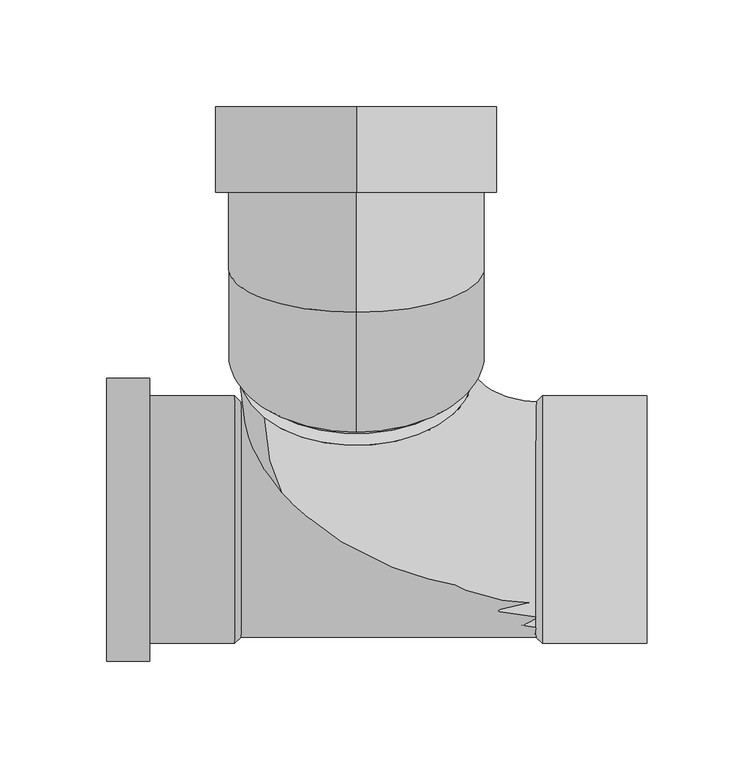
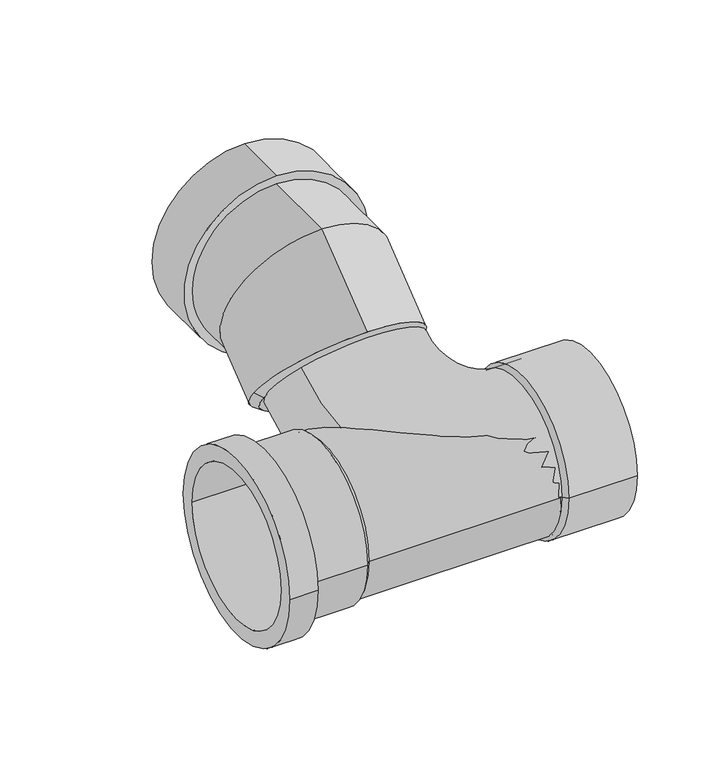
"""IFC4 building model written with IfcOpenShell, lengths in millimetres: pipe fitting geometry, Wavin_PipeAccessory_OsmaAccessoriesWcBranch : 38º."""

from ifc_helpers import new_model, si_unit, point, frame, origin, origin_2d, place, context, project, spatial, polyline, circle_curve, ellipse_curve, trimmed, segment, composite_curve, outline, extrude, source, transform, mapped, element, save
from ifc_brep_helpers import plane_surface, cylinder_surface, revolved_surface, advanced_brep


def pipe_fitting_1e764480(model_context):
    return source(origin(), model_context, "Body", "SolidModel", [
        advanced_brep(
        [(-54.1, -55.0, 0.0), (-54.1, 55.0, 0.0), (-117.0, 55.0, 0.0), (-117.0, -55.0, 0.0), (-97.0, -57.9, 0.0), (-97.0, 57.9, 0.0), (-57.0, 57.9, 0.0), (-57.0, -57.9, 0.0), (-117.0, -66.25, 0.0), (-117.0, 66.25, 0.0), (-97.0, 66.25, 0.0), (-97.0, -66.25, 0.0)],
        [
            (0, 1, circle_curve(frame((-54.1, 0.0, 0.0), z_axis=(1.0, 0.0, 0.0), x_axis=(0.0, 1.0000000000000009, 0.0)), 55.0)),
            (1, 2),
            (2, 3, circle_curve(frame((-117.0, 0.0, 0.0), z_axis=(-1.0, 0.0, 0.0), x_axis=(0.0, 1.0000000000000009, 0.0)), 55.0)),
            (3, 0),
            (4, 5, circle_curve(frame((-97.0, 0.0, 0.0), z_axis=(1.0, 0.0, 0.0), x_axis=(0.0, 1.0000000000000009, 0.0)), 57.9)),
            (5, 6),
            (6, 7, circle_curve(frame((-57.0, 0.0, 0.0), z_axis=(-1.0, 0.0, 0.0), x_axis=(0.0, 1.0000000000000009, 0.0)), 57.9)),
            (7, 4),
            (1, 0, circle_curve(frame((-54.1, 0.0, 0.0), z_axis=(1.0, 0.0, 0.0), x_axis=(0.0, -1.0000000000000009, 0.0)), 55.0)),
            (3, 2, circle_curve(frame((-117.0, 0.0, 0.0), z_axis=(-1.0, 0.0, 0.0), x_axis=(0.0, -1.0000000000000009, 0.0)), 55.0)),
            (5, 4, circle_curve(frame((-97.0, 0.0, 0.0), z_axis=(1.0, 0.0, 0.0), x_axis=(0.0, -1.0000000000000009, 0.0)), 57.9)),
            (7, 6, circle_curve(frame((-57.0, 0.0, 0.0), z_axis=(-1.0, 0.0, 0.0), x_axis=(0.0, -1.0000000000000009, 0.0)), 57.9)),
            (8, 9, circle_curve(frame((-117.0, 0.0, 0.0), z_axis=(1.0, 0.0, 0.0), x_axis=(0.0, 1.0000000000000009, 0.0)), 66.25)),
            (9, 10),
            (10, 11, circle_curve(frame((-97.0, 0.0, 0.0), z_axis=(-1.0, 0.0, 0.0), x_axis=(0.0, 1.0000000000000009, 0.0)), 66.25)),
            (11, 8),
            (10, 11, circle_curve(frame((-97.0, 0.0, 0.0), z_axis=(1.0, 0.0, 0.0), x_axis=(0.0, -1.0000000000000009, 0.0)), 66.25)),
            (9, 8, circle_curve(frame((-117.0, 0.0, 0.0), z_axis=(1.0, 0.0, 0.0), x_axis=(0.0, -1.0000000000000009, 0.0)), 66.25)),
            (6, 1),
            (0, 7),
        ],
        [
            revolved_surface(polyline([(-117.00000000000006, 55.00000000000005, 0.0), (-54.1, 55.00000000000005, 0.0)]), (-57.0, 0.0, 0.0), (-1.0000000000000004, 0.0, 0.0)),
            cylinder_surface(frame((-57.0, 0.0, 0.0), z_axis=(-1.0000000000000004, 0.0, 0.0), x_axis=(0.0, 1.0000000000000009, 0.0)), 57.9),
            revolved_surface(polyline([(-117.00000000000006, -55.00000000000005, 0.0), (-54.1, -55.00000000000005, 0.0)]), (-57.0, 0.0, 0.0), (-1.0000000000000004, 0.0, 0.0)),
            cylinder_surface(frame((-57.0, 0.0, 0.0), z_axis=(-1.0000000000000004, 0.0, 0.0), x_axis=(0.0, -1.0000000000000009, 0.0)), 57.9),
            cylinder_surface(frame((-57.0, 0.0, 0.0), z_axis=(-1.0000000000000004, 0.0, 0.0), x_axis=(0.0, 1.0000000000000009, 0.0)), 66.25),
            plane_surface(frame((-97.0, 0.0, 0.0), z_axis=(1.0, 0.0, 0.0), x_axis=(0.0, -1.0, 0.0))),
            cylinder_surface(frame((-57.0, 0.0, 0.0), z_axis=(-1.0000000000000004, 0.0, 0.0), x_axis=(0.0, -1.0000000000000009, 0.0)), 66.25),
            plane_surface(frame((-117.0, 0.0, 0.0), z_axis=(-1.0, 0.0, 0.0), x_axis=(0.0, -1.0, 0.0))),
            revolved_surface(polyline([(-54.1, 55.0, 0.0), (-57.0, 57.9, 0.0)]), (-57.0, 0.0, 0.0), (-1.0000000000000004, 0.0, 0.0)),
            revolved_surface(polyline([(-54.1, -55.0, 0.0), (-57.0, -57.9, 0.0)]), (-57.0, 0.0, 0.0), (-1.0000000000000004, 0.0, 0.0)),
        ],
        [
            (0, [[1, 2, 3, 4]]),
            (1, [[5, 6, 7, 8]]),
            (2, [[9, -4, 10, -2]]),
            (3, [[11, -8, 12, -6]]),
            (4, [[13, 14, 15, 16]]),
            (5, [[17, -15], [-11, -5]]),
            (6, [[18, -16, -17, -14]]),
            (7, [[-18, -13], [-10, -3]]),
            (8, [[-7, 19, -1, 20]]),
            (9, [[-12, -20, -9, -19]]),
        ],
    ),
        advanced_brep(
        [(87.0, 57.9, 0.0), (87.0, -57.9, 0.0), (84.1, -55.0, 0.0), (84.1, 55.0, 0.0), (136.0, 57.9, 0.0), (136.0, -57.9, 0.0), (136.0, -55.0, 0.0), (136.0, 55.0, 0.0)],
        [
            (0, 1, circle_curve(frame((87.0, 0.0, 0.0), z_axis=(-1.0, 0.0, 0.0), x_axis=(0.0, -1.0, 0.0)), 57.9)),
            (1, 2),
            (2, 3, circle_curve(frame((84.1, 0.0, 0.0), z_axis=(1.0, 0.0, 0.0), x_axis=(0.0, -1.0, 0.0)), 55.0)),
            (3, 0),
            (4, 5, circle_curve(frame((136.0, 0.0, 0.0), z_axis=(-1.0, 0.0, 0.0), x_axis=(0.0, -1.0, 0.0)), 57.9)),
            (5, 1),
            (0, 4),
            (2, 6),
            (6, 7, circle_curve(frame((136.0, 0.0, 0.0), z_axis=(1.0, 0.0, 0.0), x_axis=(0.0, -1.0, 0.0)), 55.0)),
            (7, 3),
            (1, 0, circle_curve(frame((87.0, 0.0, 0.0), z_axis=(-1.0, 0.0, 0.0), x_axis=(0.0, 1.0, 0.0)), 57.9)),
            (3, 2, circle_curve(frame((84.1, 0.0, 0.0), z_axis=(1.0, 0.0, 0.0), x_axis=(0.0, 1.0, 0.0)), 55.0)),
            (5, 4, circle_curve(frame((136.0, 0.0, 0.0), z_axis=(-1.0, 0.0, 0.0), x_axis=(0.0, 1.0, 0.0)), 57.9)),
            (6, 7, circle_curve(frame((136.0, 0.0, 0.0), z_axis=(-1.0, 0.0, 0.0), x_axis=(0.0, 1.0, 0.0)), 55.0)),
        ],
        [
            revolved_surface(polyline([(84.1, -55.0, 0.0), (87.0, -57.9, 0.0)]), (87.0, 0.0, 0.0), (1.0, 0.0, 0.0)),
            cylinder_surface(frame((87.0, 0.0, 0.0), z_axis=(1.0, 0.0, 0.0), x_axis=(0.0, -1.0, 0.0)), 57.9),
            revolved_surface(polyline([(136.0, -55.0, 0.0), (84.1, -55.0, 0.0)]), (87.0, 0.0, 0.0), (1.0, 0.0, 0.0)),
            revolved_surface(polyline([(84.1, 55.0, 0.0), (87.0, 57.9, 0.0)]), (87.0, 0.0, 0.0), (1.0, 0.0, 0.0)),
            cylinder_surface(frame((87.0, 0.0, 0.0), z_axis=(1.0, 0.0, 0.0), x_axis=(0.0, 1.0, 0.0)), 57.9),
            plane_surface(frame((136.0, 0.0, 0.0), z_axis=(1.0, 0.0, 0.0), x_axis=(0.0, 1.0, 0.0))),
            revolved_surface(polyline([(136.0, 55.0, 0.0), (84.1, 55.0, 0.0)]), (87.0, 0.0, 0.0), (1.0, 0.0, 0.0)),
        ],
        [
            (0, [[1, 2, 3, 4]]),
            (1, [[5, 6, -1, 7]]),
            (2, [[-3, 8, 9, 10]]),
            (3, [[11, -4, 12, -2]]),
            (4, [[13, -7, -11, -6]]),
            (5, [[-13, -5], [14, -9]]),
            (6, [[-12, -10, -14, -8]]),
        ],
    ),
        advanced_brep(
        [(87.0, -55.0, 0.0), (87.0, 55.0, 0.0), (43.3405914, 89.4040834, 26.8794159), (-43.3405914, 47.7097877, 80.2456808)],
        [
            (0, 1, circle_curve(frame((87.0, 0.0, 0.0), z_axis=(1.0000000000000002, 0.0, 0.0), x_axis=(0.0, 1.0000000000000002, 0.0)), 55.0)),
            (1, 0, circle_curve(frame((87.0, 0.0, 0.0), z_axis=(1.0000000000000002, 0.0, 0.0), x_axis=(0.0, 1.0000000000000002, 0.0)), 55.0)),
            (2, 1, circle_curve(frame((87.0, 89.4040834, 26.8794159), z_axis=(0.0, -0.6156614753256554, 0.7880107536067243), x_axis=(0.0, -0.7880107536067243, -0.6156614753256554)), 43.6594086)),
            (0, 3, circle_curve(frame((87.0, 47.7097877, 80.2456808), z_axis=(0.0, 0.6156614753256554, -0.7880107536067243), x_axis=(0.0, -0.7880107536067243, -0.6156614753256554)), 130.3405914)),
            (3, 2, circle_curve(frame((0.0, 68.5569356, 53.5625484), z_axis=(0.0, -0.7880107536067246, -0.6156614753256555), x_axis=(0.788010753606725, 0.3790390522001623, -0.4851478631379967)), 55.0)),
            (2, 3, circle_curve(frame((0.0, 68.5569356, 53.5625484), z_axis=(0.0, -0.7880107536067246, -0.6156614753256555), x_axis=(0.788010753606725, 0.3790390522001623, -0.4851478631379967)), 55.0)),
        ],
        [
            plane_surface(frame((87.0, 99.3400093, 14.1620107), z_axis=(1.0000000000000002, 0.0, 0.0), x_axis=(0.0, -0.7880107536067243, -0.6156614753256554))),
            revolved_surface(trimmed(ellipse_curve(frame((87.0, 0.0, 0.0), z_axis=(1.0000000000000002, 0.0, 0.0), x_axis=(0.0, 1.0000000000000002, 0.0)), 55.0, 55.0), [point((87.0, -55.0, 0.0))], [point((87.0, 55.0, 0.0))], True, "CARTESIAN"), (87.0, 99.3400093, 14.1620107), (0.0, 0.6156614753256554, -0.7880107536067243)),
            revolved_surface(trimmed(ellipse_curve(frame((87.0, 0.0, 0.0), z_axis=(1.0000000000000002, 0.0, 0.0), x_axis=(0.0, 1.0000000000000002, 0.0)), 55.0, 55.0), [point((87.0, 55.0, 0.0))], [point((87.0, -55.0, 0.0))], True, "CARTESIAN"), (87.0, 99.3400093, 14.1620107), (0.0, 0.6156614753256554, -0.7880107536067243)),
            plane_surface(frame((87.0, 99.3400093, 14.1620107), z_axis=(0.0, 0.7880107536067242, 0.6156614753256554), x_axis=(-1.0, 0.0, 0.0))),
        ],
        [
            (0, [[1, 2]]),
            (1, [[3, -1, 4, 5]]),
            (2, [[-4, -2, -3, 6]]),
            (3, [[-6, -5]]),
        ],
    ),
        advanced_brep(
        [(0.0, 193.2294087, 14.0), (0.0, 193.2294087, 146.0), (0.0, 193.2294087, 136.5), (0.0, 193.2294087, 23.5), (0.0, 96.9947723, 140.0), (0.0, 138.3140859, 20.0), (0.0, 153.2294087, 20.0), (0.0, 153.2294087, 140.0), (0.0, 40.9402319, 96.2053933), (60.0, 77.8799204, 48.924748), (0.0, 114.8196089, 1.6441028), (-60.0, 77.8799204, 48.924748), (0.0, 153.2294087, 14.0), (0.0, 153.2294087, 146.0), (0.0, 123.2294087, 136.5), (0.0, 123.2294087, 23.5), (55.0, 73.9398666, 45.8464407), (-55.0, 73.9398666, 45.8464407)],
        [
            (0, 1, circle_curve(frame((0.0, 193.2294087, 80.0), z_axis=(0.0, 1.0, 0.0), x_axis=(0.0, 0.0, 1.0)), 66.0)),
            (1, 0, circle_curve(frame((0.0, 193.2294087, 80.0), z_axis=(0.0, 1.0, 0.0), x_axis=(0.0, 0.0, 1.0)), 66.0)),
            (2, 3, circle_curve(frame((0.0, 193.2294087, 80.0), z_axis=(0.0, -1.0, 0.0), x_axis=(0.0, 0.0, -1.0)), 56.5)),
            (3, 2, circle_curve(frame((0.0, 193.2294087, 80.0), z_axis=(0.0, -1.0, 0.0), x_axis=(0.0, 0.0, -1.0)), 56.5)),
            (4, 5, ellipse_curve(frame((0.0, 117.6544291, 80.0), z_axis=(0.0, 0.9455185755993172, 0.3255681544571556), x_axis=(0.0, 0.32556815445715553, -0.9455185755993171)), 63.4572409, 60.0)),
            (5, 6),
            (6, 7, circle_curve(frame((0.0, 153.2294087, 80.0), z_axis=(0.0, -1.0, 0.0), x_axis=(0.0, 0.0, -1.0)), 60.0)),
            (7, 4),
            (5, 4, ellipse_curve(frame((0.0, 117.6544291, 80.0), z_axis=(0.0, 0.9455185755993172, 0.3255681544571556), x_axis=(0.0, 0.32556815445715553, -0.9455185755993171)), 63.4572409, 60.0)),
            (7, 6, circle_curve(frame((0.0, 153.2294087, 80.0), z_axis=(0.0, -1.0, 0.0), x_axis=(0.0, 0.0, -1.0)), 60.0)),
            (4, 8),
            (8, 9, circle_curve(frame((0.0, 77.8799204, 48.924748), z_axis=(0.0, 0.7880107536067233, 0.6156614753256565), x_axis=(0.0, 0.6156614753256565, -0.7880107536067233)), 60.0)),
            (9, 10, circle_curve(frame((0.0, 77.8799204, 48.924748), z_axis=(0.0, 0.7880107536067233, 0.6156614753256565), x_axis=(0.0, 0.6156614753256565, -0.7880107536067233)), 60.0)),
            (10, 5),
            (10, 11, circle_curve(frame((0.0, 77.8799204, 48.924748), z_axis=(0.0, 0.7880107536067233, 0.6156614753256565), x_axis=(0.0, 0.6156614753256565, -0.7880107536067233)), 60.0)),
            (11, 8, circle_curve(frame((0.0, 77.8799204, 48.924748), z_axis=(0.0, 0.7880107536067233, 0.6156614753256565), x_axis=(0.0, 0.6156614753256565, -0.7880107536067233)), 60.0)),
            (12, 13, circle_curve(frame((0.0, 153.2294087, 80.0), z_axis=(0.0, -1.0, 0.0), x_axis=(0.0, 0.0, 1.0)), 66.0)),
            (13, 12, circle_curve(frame((0.0, 153.2294087, 80.0), z_axis=(0.0, -1.0, 0.0), x_axis=(0.0, 0.0, 1.0)), 66.0)),
            (13, 1),
            (0, 12),
            (14, 15, circle_curve(frame((0.0, 123.2294087, 80.0), z_axis=(0.0, 1.0, 0.0), x_axis=(0.0, 0.0, -1.0)), 56.5)),
            (15, 14, circle_curve(frame((0.0, 123.2294087, 80.0), z_axis=(0.0, 1.0, 0.0), x_axis=(0.0, 0.0, -1.0)), 56.5)),
            (15, 3),
            (2, 14),
            (9, 16),
            (16, 17, circle_curve(frame((0.0, 73.9398666, 45.8464407), z_axis=(0.0, 0.7880107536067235, 0.6156614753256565), x_axis=(-1.0, 0.0, 0.0)), 55.0)),
            (17, 11),
            (17, 16, circle_curve(frame((0.0, 73.9398666, 45.8464407), z_axis=(0.0, 0.7880107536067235, 0.6156614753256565), x_axis=(1.0, 0.0, 0.0)), 55.0)),
        ],
        [
            plane_surface(frame((0.0, 193.2294087, 80.0), z_axis=(0.0, 1.0, 0.0), x_axis=(1.0, 0.0, 0.0))),
            cylinder_surface(frame((0.0, 193.2294087, 80.0), z_axis=(0.0, 1.0, 0.0), x_axis=(0.0, 0.0, -1.0)), 60.0),
            cylinder_surface(frame((0.0, 117.6544291, 80.0), z_axis=(0.0, 0.7880107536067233, 0.6156614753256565), x_axis=(0.0, 0.6156614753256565, -0.7880107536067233)), 60.0),
            plane_surface(frame((0.0, 153.2294087, 146.0), z_axis=(0.0, -1.0, 0.0), x_axis=(-1.0, 0.0, 0.0))),
            cylinder_surface(frame((0.0, 153.2294087, 80.0), z_axis=(0.0, 1.0, 0.0), x_axis=(0.0, 0.0, 1.0)), 66.0),
            plane_surface(frame((0.0, 123.2294087, 23.5), z_axis=(0.0, 1.0, 0.0), x_axis=(1.0, 0.0, 0.0))),
            revolved_surface(polyline([(0.0, 123.2294087, 23.5), (0.0, 193.2294087, 23.5)]), (0.0, 193.2294087, 80.0), (0.0, -1.0, 0.0)),
            revolved_surface(polyline([(-60.0, 77.8799204, 48.924748), (-55.0, 73.9398666, 45.8464407)]), (0.0, 73.9398666, 45.8464407), (0.0, -0.7880107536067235, -0.6156614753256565)),
            revolved_surface(polyline([(60.0, 77.8799204, 48.924748), (55.0, 73.9398666, 45.8464407)]), (0.0, 73.9398666, 45.8464407), (0.0, -0.7880107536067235, -0.6156614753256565)),
            plane_surface(frame((0.0, 73.9398666, 45.8464407), z_axis=(0.0, -0.7880107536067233, -0.6156614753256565), x_axis=(1.0, 0.0, 0.0))),
        ],
        [
            (0, [[1, 2], [3, 4]]),
            (1, [[5, 6, 7, 8]]),
            (1, [[9, -8, 10, -6]]),
            (2, [[-5, 11, 12, 13, 14]]),
            (2, [[-9, -14, 15, 16, -11]]),
            (3, [[17, 18], [-7, -10]]),
            (4, [[-18, 19, -1, 20]]),
            (4, [[-17, -20, -2, -19]]),
            (5, [[21, 22]]),
            (6, [[-22, 23, -3, 24]]),
            (6, [[-21, -24, -4, -23]]),
            (7, [[25, 26, 27, -15, -13]]),
            (8, [[-25, -12, -16, -27, 28]]),
            (9, [[-26, -28]]),
        ],
    ),
        extrude(outline(composite_curve([segment(trimmed(circle_curve(origin_2d(), 55.0), [point((-55.0, 0.0))], [point((55.0, 0.0))], False, "CARTESIAN"), True, "CONTINUOUS"), segment(trimmed(circle_curve(origin_2d(), 55.0), [point((55.0, 0.0))], [point((-55.0, 0.0))], False, "CARTESIAN"), True, "CONTINUOUS")], self_intersect=False)), frame((-57.0, 0.0, 0.0), z_axis=(1.0, 0.0, 0.0), x_axis=(0.0, 1.0, 0.0)), (0.0, 0.0, 1.0), 144.0),
    ])


if __name__ == "__main__":
    model = new_model("IFC4")
    model_context = context("Model", 3, world=origin())
    ifc_project = project(units=[si_unit("LENGTHUNIT", "METRE", prefix="MILLI")], contexts=[model_context])
    site = spatial("IfcSite", under=ifc_project)
    building = spatial("IfcBuilding", under=site)
    placement = place(None, origin())
    pipe_fitting_shape = pipe_fitting_1e764480(model_context)
    element("IfcPipeFitting", 1, ObjectType="Wavin_PipeAccessory_OsmaAccessoriesWcBranch : 38º", at=placement, inside=building, context=model_context, shape_type="MappedRepresentation", body=[
        mapped(pipe_fitting_shape, transform((0.0, 0.0, 0.0), x_axis=(1.0, 0.0, 0.0), y_axis=(0.0, 1.0, 0.0), z_axis=(0.0, 0.0, 1.0))),
    ])
    save(model, "model.ifc")
